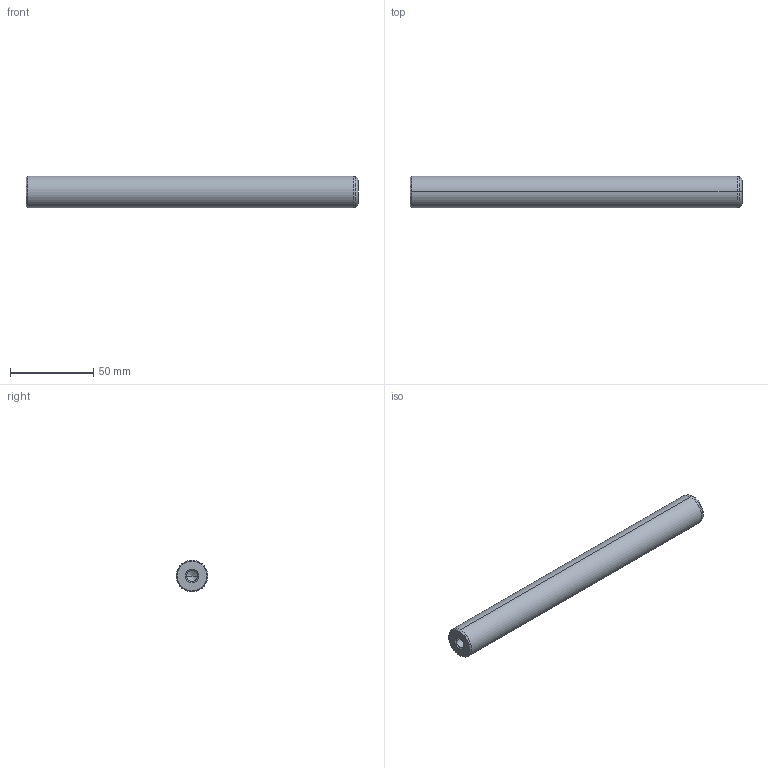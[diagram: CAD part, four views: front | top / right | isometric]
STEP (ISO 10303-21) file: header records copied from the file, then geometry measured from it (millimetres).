
FILE_DESCRIPTION(('CATIA V5 STEP Exchange'),'2;1');
FILE_NAME('C:\Users\Utente\Desktop\IO LAVORO\3D X SITO CF\X SITO\720\720-19x200.stp','2021-01-01T13:05:28+00:00',('none'),('none'),'CATIA Version 5 Release 20 GA (IN-10)','CATIA V5 STEP AP203','none');
FILE_SCHEMA(('CONFIG_CONTROL_DESIGN'));
Length unit declared in the file: millimetre
Products named in the file (1): 720-19x200
Bounding box: 200 x 19 x 19 mm (x, y, z)
Volume: 54874.7 mm3; surface area: 13403.3 mm2
Topology: 1 solids, 1 shells, 22 faces, 56 edges, 34 vertices
Faces by surface type: cone 12, cylinder 6, plane 2, torus 2
Entity records: 755 total; most frequent: CARTESIAN_POINT 216, ORIENTED_EDGE 104, DIRECTION 89, EDGE_CURVE 52, AXIS2_PLACEMENT_3D 50, VERTEX_POINT 34, CIRCLE 27, EDGE_LOOP 24
